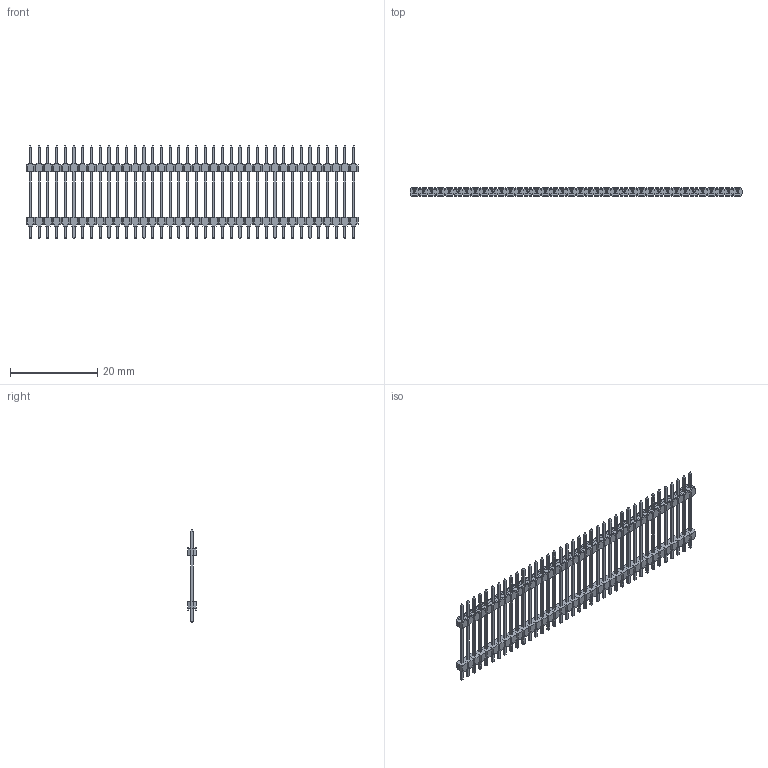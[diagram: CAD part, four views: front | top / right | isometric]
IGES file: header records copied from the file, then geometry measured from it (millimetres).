
Global section: file name: N:\GOLF_VI_2mm_UGII\9514XX_901XX06_AR\951438-9012506-AR.igs; native system: NX V3.0; preprocessor: UGS NX IGES V4.0; date: 20070314.120438; units: millimetre
Bounding box: 76 x 2 x 21.2 mm (x, y, z)
Surface area: 2754.5 mm2 (no closed solid volume)
Topology: 0 solids, 0 shells, 1908 faces, 10361 edges, 10361 vertices
Faces by surface type: bspline 1908
